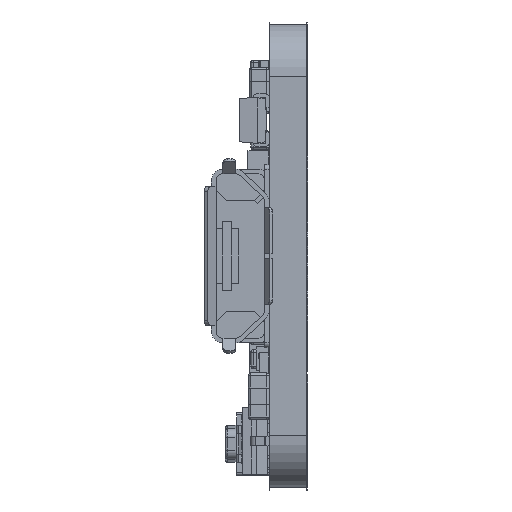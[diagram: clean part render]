
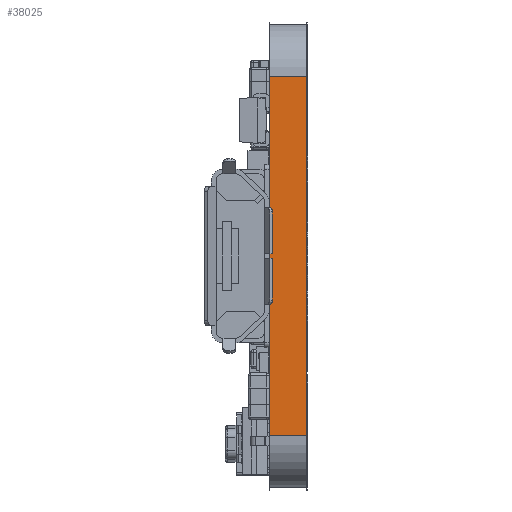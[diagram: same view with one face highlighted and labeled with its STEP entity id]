
A CAD part, left-side view. The second image highlights one B-rep face of the part: STEP entity #38025.
In plain terms, the highlighted planar face has unit normal (-1, 0, 0).
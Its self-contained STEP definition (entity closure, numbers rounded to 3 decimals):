
#3149 = FACE_OUTER_BOUND ( 'NONE', #77244, .T. ) ;
#38025 = ADVANCED_FACE ( 'NONE', ( #3149 ), #179266, .T. ) ;
#57618 = AXIS2_PLACEMENT_3D ( 'NONE', #179267, #179268, #179269 ) ;
#76390 = VERTEX_POINT ( 'NONE', #92754 ) ;
#76393 = VERTEX_POINT ( 'NONE', #92755 ) ;
#76402 = VERTEX_POINT ( 'NONE', #92758 ) ;
#76405 = VERTEX_POINT ( 'NONE', #92759 ) ;
#76535 = VERTEX_POINT ( 'NONE', #92801 ) ;
#76541 = VERTEX_POINT ( 'NONE', #92803 ) ;
#76549 = VERTEX_POINT ( 'NONE', #92805 ) ;
#76553 = VERTEX_POINT ( 'NONE', #92806 ) ;
#76556 = VERTEX_POINT ( 'NONE', #92807 ) ;
#76558 = VERTEX_POINT ( 'NONE', #92808 ) ;
#77244 = EDGE_LOOP ( 'NONE', ( #189310, #189311, #189313, #189315, #189316, #189318, #189319, #189321, #189323, #189324 ) ) ;
#92754 = CARTESIAN_POINT ( 'NONE',  ( 100., 0., -117.071 ) ) ;
#92755 = CARTESIAN_POINT ( 'NONE',  ( 100., 0., -113.862 ) ) ;
#92758 = CARTESIAN_POINT ( 'NONE',  ( 100., 0., -106.163 ) ) ;
#92759 = CARTESIAN_POINT ( 'NONE',  ( 100., 0., -102.929 ) ) ;
#92801 = CARTESIAN_POINT ( 'NONE',  ( 100., 0., -102.25 ) ) ;
#92803 = CARTESIAN_POINT ( 'NONE',  ( 100., -1.6, -102.25 ) ) ;
#92805 = CARTESIAN_POINT ( 'NONE',  ( 100., 0., -117.75 ) ) ;
#92806 = CARTESIAN_POINT ( 'NONE',  ( 100., -1.6, -117.75 ) ) ;
#92807 = CARTESIAN_POINT ( 'NONE',  ( 100., -1.6, -117.071 ) ) ;
#92808 = CARTESIAN_POINT ( 'NONE',  ( 100., -1.6, -102.929 ) ) ;
#106005 = LINE ( 'NONE', #109825, #106007 ) ;
#106007 = VECTOR ( 'NONE', #109827, 1000. ) ;
#106011 = LINE ( 'NONE', #109856, #106013 ) ;
#106013 = VECTOR ( 'NONE', #109860, 1000. ) ;
#106138 = LINE ( 'NONE', #110514, #106140 ) ;
#106140 = VECTOR ( 'NONE', #110517, 1000. ) ;
#106144 = LINE ( 'NONE', #110542, #106145 ) ;
#106145 = VECTOR ( 'NONE', #110544, 1000. ) ;
#106146 = LINE ( 'NONE', #110549, #106147 ) ;
#106147 = VECTOR ( 'NONE', #110550, 1000. ) ;
#106148 = LINE ( 'NONE', #110556, #106149 ) ;
#106149 = VECTOR ( 'NONE', #110558, 1000. ) ;
#106150 = LINE ( 'NONE', #110564, #106151 ) ;
#106151 = VECTOR ( 'NONE', #110567, 1000. ) ;
#106152 = LINE ( 'NONE', #110573, #106153 ) ;
#106153 = VECTOR ( 'NONE', #110575, 1000. ) ;
#106154 = LINE ( 'NONE', #110581, #106155 ) ;
#106155 = VECTOR ( 'NONE', #110582, 1000. ) ;
#106156 = LINE ( 'NONE', #110587, #106157 ) ;
#106157 = VECTOR ( 'NONE', #110589, 1000. ) ;
#109825 = CARTESIAN_POINT ( 'NONE',  ( 100., 0., -102.25 ) ) ;
#109827 = DIRECTION ( 'NONE',  ( 0., 0., 1. ) ) ;
#109856 = CARTESIAN_POINT ( 'NONE',  ( 100., 0., -102.25 ) ) ;
#109860 = DIRECTION ( 'NONE',  ( 0., 0., 1. ) ) ;
#110514 = CARTESIAN_POINT ( 'NONE',  ( 100., -1.6, -102.25 ) ) ;
#110517 = DIRECTION ( 'NONE',  ( 0., 1., 0. ) ) ;
#110542 = CARTESIAN_POINT ( 'NONE',  ( 100., 0., -102.25 ) ) ;
#110544 = DIRECTION ( 'NONE',  ( 0., 0., 1. ) ) ;
#110549 = CARTESIAN_POINT ( 'NONE',  ( 100., -1.6, -117.75 ) ) ;
#110550 = DIRECTION ( 'NONE',  ( 0., 1., 0. ) ) ;
#110556 = CARTESIAN_POINT ( 'NONE',  ( 100., -1.6, -102.25 ) ) ;
#110558 = DIRECTION ( 'NONE',  ( 0., 0., 1. ) ) ;
#110564 = CARTESIAN_POINT ( 'NONE',  ( 100., -1.6, -102.25 ) ) ;
#110567 = DIRECTION ( 'NONE',  ( 0., 0., 1. ) ) ;
#110573 = CARTESIAN_POINT ( 'NONE',  ( 100., -1.6, -102.25 ) ) ;
#110575 = DIRECTION ( 'NONE',  ( 0., 0., 1. ) ) ;
#110581 = CARTESIAN_POINT ( 'NONE',  ( 100., 0., -102.25 ) ) ;
#110582 = DIRECTION ( 'NONE',  ( 0., 0., -1. ) ) ;
#110587 = CARTESIAN_POINT ( 'NONE',  ( 100., 0., -102.25 ) ) ;
#110589 = DIRECTION ( 'NONE',  ( 0., 0., 1. ) ) ;
#162397 = EDGE_CURVE ( 'NONE', #76390, #76393, #106005, .T. ) ;
#162401 = EDGE_CURVE ( 'NONE', #76402, #76405, #106011, .T. ) ;
#162472 = EDGE_CURVE ( 'NONE', #76541, #76535, #106138, .T. ) ;
#162475 = EDGE_CURVE ( 'NONE', #76549, #76390, #106144, .T. ) ;
#162476 = EDGE_CURVE ( 'NONE', #76553, #76549, #106146, .T. ) ;
#162477 = EDGE_CURVE ( 'NONE', #76553, #76556, #106148, .T. ) ;
#162478 = EDGE_CURVE ( 'NONE', #76556, #76558, #106150, .T. ) ;
#162479 = EDGE_CURVE ( 'NONE', #76558, #76541, #106152, .T. ) ;
#162480 = EDGE_CURVE ( 'NONE', #76535, #76405, #106154, .T. ) ;
#162481 = EDGE_CURVE ( 'NONE', #76393, #76402, #106156, .T. ) ;
#179266 = PLANE ( 'NONE',  #57618 ) ;
#179267 = CARTESIAN_POINT ( 'NONE',  ( 100., -1.6, -102.25 ) ) ;
#179268 = DIRECTION ( 'NONE',  ( -1., 0., 0. ) ) ;
#179269 = DIRECTION ( 'NONE',  ( 0., 0., 1. ) ) ;
#189310 = ORIENTED_EDGE ( 'NONE', *, *, #162475, .F. ) ;
#189311 = ORIENTED_EDGE ( 'NONE', *, *, #162476, .F. ) ;
#189313 = ORIENTED_EDGE ( 'NONE', *, *, #162477, .T. ) ;
#189315 = ORIENTED_EDGE ( 'NONE', *, *, #162478, .T. ) ;
#189316 = ORIENTED_EDGE ( 'NONE', *, *, #162479, .T. ) ;
#189318 = ORIENTED_EDGE ( 'NONE', *, *, #162472, .T. ) ;
#189319 = ORIENTED_EDGE ( 'NONE', *, *, #162480, .T. ) ;
#189321 = ORIENTED_EDGE ( 'NONE', *, *, #162401, .F. ) ;
#189323 = ORIENTED_EDGE ( 'NONE', *, *, #162481, .F. ) ;
#189324 = ORIENTED_EDGE ( 'NONE', *, *, #162397, .F. ) ;
